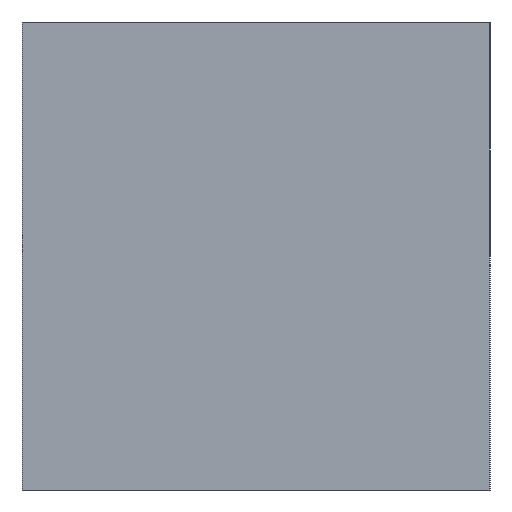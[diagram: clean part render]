
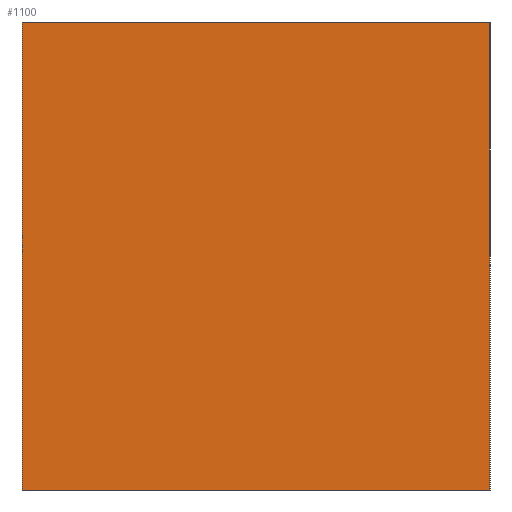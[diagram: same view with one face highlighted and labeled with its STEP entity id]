
A CAD part, left-side view. The second image highlights one B-rep face of the part: STEP entity #1100.
In plain terms, the highlighted planar face has unit normal (1, 0, 0).
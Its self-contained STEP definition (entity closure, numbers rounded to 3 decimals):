
#1061=CARTESIAN_POINT('Axis2P3D Location',(-31.5,0.,0.)) ;
#1066=CARTESIAN_POINT('Line Origine',(-31.5,0.,-20.)) ;
#1070=CARTESIAN_POINT('Vertex',(-31.5,-10.,-20.)) ;
#1072=CARTESIAN_POINT('Vertex',(-31.5,10.,-20.)) ;
#1075=CARTESIAN_POINT('Line Origine',(-31.5,10.,-10.)) ;
#1079=CARTESIAN_POINT('Vertex',(-31.5,10.,0.)) ;
#1082=CARTESIAN_POINT('Line Origine',(-31.5,0.,0.)) ;
#1086=CARTESIAN_POINT('Vertex',(-31.5,-10.,0.)) ;
#1089=CARTESIAN_POINT('Line Origine',(-31.5,-10.,-10.)) ;
#1062=DIRECTION('Axis2P3D Direction',(1.,0.,0.)) ;
#1063=DIRECTION('Axis2P3D XDirection',(0.,1.,0.)) ;
#1067=DIRECTION('Vector Direction',(0.,1.,0.)) ;
#1076=DIRECTION('Vector Direction',(0.,0.,1.)) ;
#1083=DIRECTION('Vector Direction',(0.,-1.,0.)) ;
#1090=DIRECTION('Vector Direction',(0.,0.,-1.)) ;
#1064=AXIS2_PLACEMENT_3D('Plane Axis2P3D',#1061,#1062,#1063) ;
#1095=ORIENTED_EDGE('',*,*,#1074,.T.) ;
#1096=ORIENTED_EDGE('',*,*,#1081,.T.) ;
#1097=ORIENTED_EDGE('',*,*,#1088,.T.) ;
#1098=ORIENTED_EDGE('',*,*,#1093,.T.) ;
#1068=VECTOR('Line Direction',#1067,1.) ;
#1077=VECTOR('Line Direction',#1076,1.) ;
#1084=VECTOR('Line Direction',#1083,1.) ;
#1091=VECTOR('Line Direction',#1090,1.) ;
#1100=ADVANCED_FACE('MANIFOLD_SOLID_BREP #2374',(#1099),#1065,.T.) ;
#1074=EDGE_CURVE('',#1071,#1073,#1069,.T.) ;
#1081=EDGE_CURVE('',#1073,#1080,#1078,.T.) ;
#1088=EDGE_CURVE('',#1080,#1087,#1085,.T.) ;
#1093=EDGE_CURVE('',#1087,#1071,#1092,.T.) ;
#1094=EDGE_LOOP('',(#1095,#1096,#1097,#1098)) ;
#1099=FACE_OUTER_BOUND('',#1094,.T.) ;
#1069=LINE('Line',#1066,#1068) ;
#1078=LINE('Line',#1075,#1077) ;
#1085=LINE('Line',#1082,#1084) ;
#1092=LINE('Line',#1089,#1091) ;
#1065=PLANE('Plane',#1064) ;
#1071=VERTEX_POINT('',#1070) ;
#1073=VERTEX_POINT('',#1072) ;
#1080=VERTEX_POINT('',#1079) ;
#1087=VERTEX_POINT('',#1086) ;
